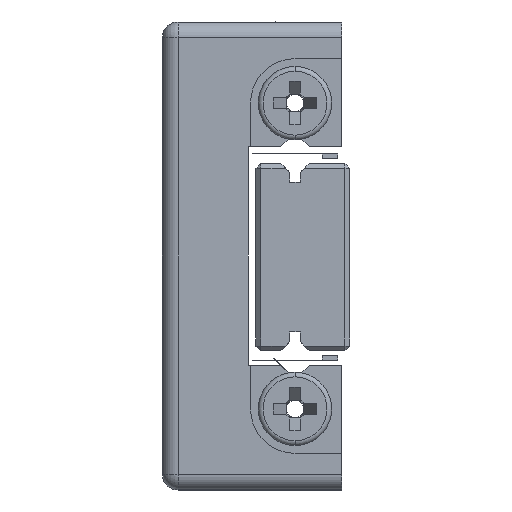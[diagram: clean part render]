
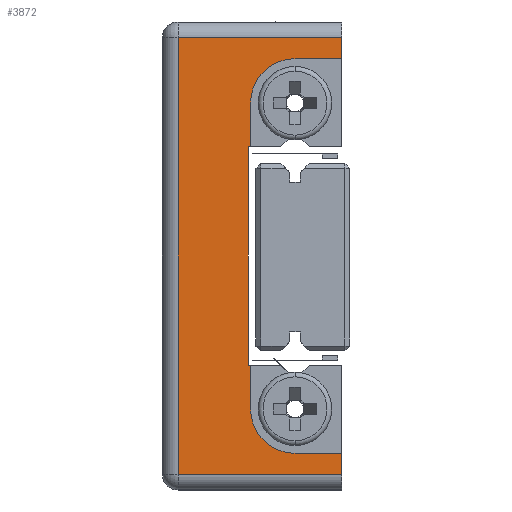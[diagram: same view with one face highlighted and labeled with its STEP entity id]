
A CAD part, left-side view. The second image highlights one B-rep face of the part: STEP entity #3872.
In plain terms, the highlighted planar face has unit normal (-1, 0, 0).
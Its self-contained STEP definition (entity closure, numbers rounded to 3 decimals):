
#124 = DIRECTION ( 'NONE',  ( 0., -1., 0. ) ) ;
#289 = VERTEX_POINT ( 'NONE', #8253 ) ;
#582 = ORIENTED_EDGE ( 'NONE', *, *, #15281, .T. ) ;
#591 = ORIENTED_EDGE ( 'NONE', *, *, #20828, .T. ) ;
#670 = AXIS2_PLACEMENT_3D ( 'NONE', #21683, #11283, #784 ) ;
#693 = DIRECTION ( 'NONE',  ( 0., 0., 1. ) ) ;
#784 = DIRECTION ( 'NONE',  ( 0., 0., 1. ) ) ;
#885 = LINE ( 'NONE', #5753, #1025 ) ;
#900 = ORIENTED_EDGE ( 'NONE', *, *, #7422, .T. ) ;
#1002 = DIRECTION ( 'NONE',  ( 0., 0., 1. ) ) ;
#1025 = VECTOR ( 'NONE', #693, 1000. ) ;
#1049 = LINE ( 'NONE', #9301, #1557 ) ;
#1376 = EDGE_CURVE ( 'NONE', #16850, #17875, #6661, .T. ) ;
#1557 = VECTOR ( 'NONE', #3938, 1000. ) ;
#1619 = DIRECTION ( 'NONE',  ( 0., 0., 1. ) ) ;
#1643 = VECTOR ( 'NONE', #17182, 1000. ) ;
#1909 = CARTESIAN_POINT ( 'NONE',  ( -59.341, 14.082, -7. ) ) ;
#2194 = EDGE_CURVE ( 'NONE', #10578, #15637, #885, .T. ) ;
#2206 = VERTEX_POINT ( 'NONE', #12815 ) ;
#2307 = EDGE_CURVE ( 'NONE', #17875, #20974, #12124, .T. ) ;
#2643 = CARTESIAN_POINT ( 'NONE',  ( -59.341, 20.082, 7. ) ) ;
#2722 = PLANE ( 'NONE',  #14476 ) ;
#3227 = CARTESIAN_POINT ( 'NONE',  ( -59.341, 14.082, -15. ) ) ;
#3333 = CARTESIAN_POINT ( 'NONE',  ( -59.341, 25.582, 14. ) ) ;
#3513 = CARTESIAN_POINT ( 'NONE',  ( -59.341, 19.932, -7. ) ) ;
#3599 = DIRECTION ( 'NONE',  ( 1., 0., 0. ) ) ;
#3683 = VERTEX_POINT ( 'NONE', #20146 ) ;
#3690 = LINE ( 'NONE', #3333, #7605 ) ;
#3872 = ADVANCED_FACE ( 'NONE', ( #4023 ), #2722, .F. ) ;
#3938 = DIRECTION ( 'NONE',  ( 0., 1., 0. ) ) ;
#4023 = FACE_OUTER_BOUND ( 'NONE', #18628, .T. ) ;
#4973 = DIRECTION ( 'NONE',  ( 0., 0., 1. ) ) ;
#5747 = VECTOR ( 'NONE', #18532, 1000. ) ;
#5753 = CARTESIAN_POINT ( 'NONE',  ( -59.341, 20.082, 7. ) ) ;
#5776 = LINE ( 'NONE', #3227, #5869 ) ;
#5869 = VECTOR ( 'NONE', #4973, 1000. ) ;
#5966 = EDGE_CURVE ( 'NONE', #13031, #16850, #1049, .T. ) ;
#6146 = LINE ( 'NONE', #13226, #22073 ) ;
#6575 = DIRECTION ( 'NONE',  ( 0., -1., 0. ) ) ;
#6661 = CIRCLE ( 'NONE', #17784, 2.85 ) ;
#6724 = ORIENTED_EDGE ( 'NONE', *, *, #7307, .T. ) ;
#7307 = EDGE_CURVE ( 'NONE', #21648, #10211, #15553, .T. ) ;
#7422 = EDGE_CURVE ( 'NONE', #15637, #21648, #16597, .T. ) ;
#7605 = VECTOR ( 'NONE', #17235, 1000. ) ;
#7753 = CARTESIAN_POINT ( 'NONE',  ( -59.341, 14.082, 14. ) ) ;
#7894 = EDGE_CURVE ( 'NONE', #20974, #10578, #21198, .T. ) ;
#7938 = VERTEX_POINT ( 'NONE', #9123 ) ;
#8132 = CARTESIAN_POINT ( 'NONE',  ( -59.341, 20.082, -7. ) ) ;
#8137 = VERTEX_POINT ( 'NONE', #7753 ) ;
#8253 = CARTESIAN_POINT ( 'NONE',  ( -59.341, 24.582, 14. ) ) ;
#8781 = LINE ( 'NONE', #15102, #5747 ) ;
#9086 = CARTESIAN_POINT ( 'NONE',  ( -59.341, 14.082, -14. ) ) ;
#9123 = CARTESIAN_POINT ( 'NONE',  ( -59.341, 14.082, 12.65 ) ) ;
#9301 = CARTESIAN_POINT ( 'NONE',  ( -59.341, 17.082, -12.65 ) ) ;
#9334 = ORIENTED_EDGE ( 'NONE', *, *, #1376, .T. ) ;
#9831 = CARTESIAN_POINT ( 'NONE',  ( -59.341, 25.582, -15. ) ) ;
#10193 = CARTESIAN_POINT ( 'NONE',  ( -59.341, 19.932, 9.8 ) ) ;
#10211 = VERTEX_POINT ( 'NONE', #10193 ) ;
#10578 = VERTEX_POINT ( 'NONE', #8132 ) ;
#10747 = CARTESIAN_POINT ( 'NONE',  ( -59.341, 19.932, -9.8 ) ) ;
#11283 = DIRECTION ( 'NONE',  ( 1., 0., 0. ) ) ;
#11461 = ORIENTED_EDGE ( 'NONE', *, *, #18665, .T. ) ;
#11534 = CIRCLE ( 'NONE', #670, 2.85 ) ;
#11561 = DIRECTION ( 'NONE',  ( 0., 0., -1. ) ) ;
#11695 = VECTOR ( 'NONE', #13465, 1000. ) ;
#12121 = CARTESIAN_POINT ( 'NONE',  ( -59.341, 14.082, -12.65 ) ) ;
#12124 = LINE ( 'NONE', #22128, #11695 ) ;
#12207 = EDGE_CURVE ( 'NONE', #10211, #3683, #11534, .T. ) ;
#12346 = DIRECTION ( 'NONE',  ( 0., 1., 0. ) ) ;
#12520 = ORIENTED_EDGE ( 'NONE', *, *, #2194, .T. ) ;
#12815 = CARTESIAN_POINT ( 'NONE',  ( -59.341, 24.582, -14. ) ) ;
#13031 = VERTEX_POINT ( 'NONE', #12121 ) ;
#13226 = CARTESIAN_POINT ( 'NONE',  ( -59.341, 14.082, -15. ) ) ;
#13465 = DIRECTION ( 'NONE',  ( 0., 0., 1. ) ) ;
#14039 = CARTESIAN_POINT ( 'NONE',  ( -59.341, 17.082, -9.8 ) ) ;
#14310 = ORIENTED_EDGE ( 'NONE', *, *, #7894, .T. ) ;
#14363 = ORIENTED_EDGE ( 'NONE', *, *, #12207, .T. ) ;
#14476 = AXIS2_PLACEMENT_3D ( 'NONE', #9831, #21971, #11561 ) ;
#14608 = CARTESIAN_POINT ( 'NONE',  ( -59.341, 19.932, 7. ) ) ;
#15051 = ORIENTED_EDGE ( 'NONE', *, *, #21366, .T. ) ;
#15102 = CARTESIAN_POINT ( 'NONE',  ( -59.341, 24.582, -15. ) ) ;
#15281 = EDGE_CURVE ( 'NONE', #2206, #20154, #17232, .T. ) ;
#15462 = LINE ( 'NONE', #22445, #1643 ) ;
#15471 = ORIENTED_EDGE ( 'NONE', *, *, #5966, .T. ) ;
#15553 = LINE ( 'NONE', #22489, #15775 ) ;
#15637 = VERTEX_POINT ( 'NONE', #2643 ) ;
#15761 = DIRECTION ( 'NONE',  ( 0., 0., -1. ) ) ;
#15775 = VECTOR ( 'NONE', #1619, 1000. ) ;
#16171 = ORIENTED_EDGE ( 'NONE', *, *, #2307, .T. ) ;
#16271 = ORIENTED_EDGE ( 'NONE', *, *, #19098, .T. ) ;
#16597 = LINE ( 'NONE', #21053, #16818 ) ;
#16818 = VECTOR ( 'NONE', #124, 1000. ) ;
#16850 = VERTEX_POINT ( 'NONE', #21475 ) ;
#17132 = EDGE_CURVE ( 'NONE', #8137, #289, #3690, .T. ) ;
#17182 = DIRECTION ( 'NONE',  ( 0., -1., 0. ) ) ;
#17232 = LINE ( 'NONE', #22144, #18350 ) ;
#17235 = DIRECTION ( 'NONE',  ( 0., 1., 0. ) ) ;
#17784 = AXIS2_PLACEMENT_3D ( 'NONE', #14039, #3599, #15761 ) ;
#17875 = VERTEX_POINT ( 'NONE', #10747 ) ;
#18350 = VECTOR ( 'NONE', #6575, 1000. ) ;
#18532 = DIRECTION ( 'NONE',  ( 0., 0., -1. ) ) ;
#18628 = EDGE_LOOP ( 'NONE', ( #16271, #19601, #591, #582, #11461, #15471, #9334, #16171, #14310, #12520, #900, #6724, #14363, #15051 ) ) ;
#18665 = EDGE_CURVE ( 'NONE', #20154, #13031, #6146, .T. ) ;
#19098 = EDGE_CURVE ( 'NONE', #7938, #8137, #5776, .T. ) ;
#19601 = ORIENTED_EDGE ( 'NONE', *, *, #17132, .T. ) ;
#20146 = CARTESIAN_POINT ( 'NONE',  ( -59.341, 17.082, 12.65 ) ) ;
#20154 = VERTEX_POINT ( 'NONE', #9086 ) ;
#20828 = EDGE_CURVE ( 'NONE', #289, #2206, #8781, .T. ) ;
#20974 = VERTEX_POINT ( 'NONE', #3513 ) ;
#21053 = CARTESIAN_POINT ( 'NONE',  ( -59.341, 14.082, 7. ) ) ;
#21198 = LINE ( 'NONE', #1909, #21774 ) ;
#21366 = EDGE_CURVE ( 'NONE', #3683, #7938, #15462, .T. ) ;
#21475 = CARTESIAN_POINT ( 'NONE',  ( -59.341, 17.082, -12.65 ) ) ;
#21648 = VERTEX_POINT ( 'NONE', #14608 ) ;
#21683 = CARTESIAN_POINT ( 'NONE',  ( -59.341, 17.082, 9.8 ) ) ;
#21774 = VECTOR ( 'NONE', #12346, 1000. ) ;
#21971 = DIRECTION ( 'NONE',  ( 1., 0., 0. ) ) ;
#22073 = VECTOR ( 'NONE', #1002, 1000. ) ;
#22128 = CARTESIAN_POINT ( 'NONE',  ( -59.341, 19.932, -9.8 ) ) ;
#22144 = CARTESIAN_POINT ( 'NONE',  ( -59.341, 25.582, -14. ) ) ;
#22445 = CARTESIAN_POINT ( 'NONE',  ( -59.341, 17.082, 12.65 ) ) ;
#22489 = CARTESIAN_POINT ( 'NONE',  ( -59.341, 19.932, 9.8 ) ) ;
